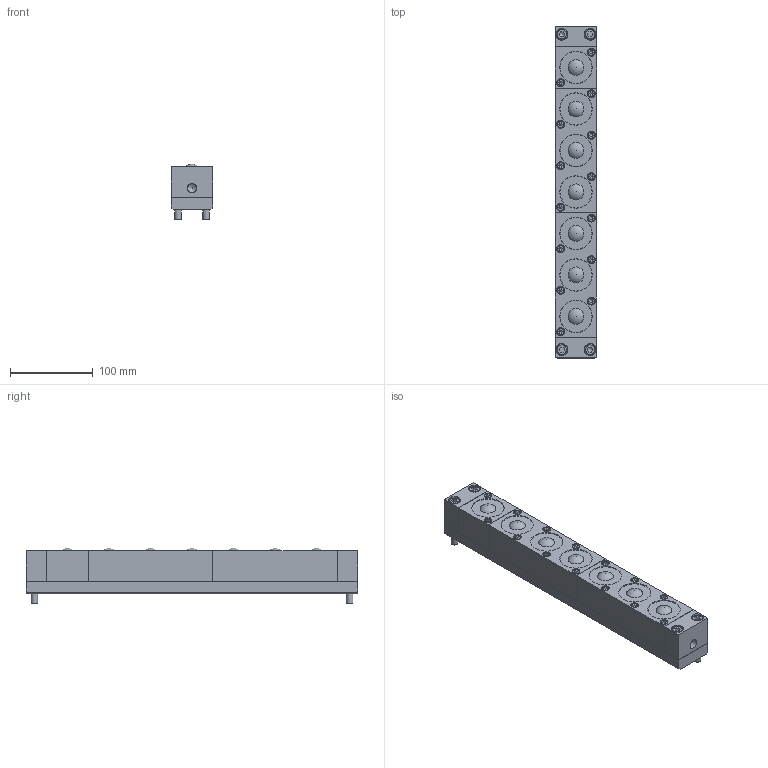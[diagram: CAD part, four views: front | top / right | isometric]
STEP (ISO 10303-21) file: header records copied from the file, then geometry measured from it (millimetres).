
FILE_DESCRIPTION(/* description */ (''),/* implementation_level */ '2;1');
FILE_NAME(/* name */ 'Z:\34-Tei\01-web 3Dデータ\41-ISR-50S型\ISR-50S-400-A.stp',/* time_stamp */ '2015-01-16T09:35:47+09:00',/* author */ ('yamaki'),/* organization */ (''),/* preprocessor_version */ 'ST-DEVELOPER v15.6',/* originating_system */ 'Autodesk Inventor 2015',/* authorisation */ '');
FILE_SCHEMA (('AUTOMOTIVE_DESIGN { 1 0 10303 214 3 1 1 }'));
Length unit declared in the file: millimetre
Products named in the file (6): 4200AT-01-400; 六角穴付きボルト-M8x55; 4200AT-02; 4200AT-00; 4200AT-03; ISR-50S
Bounding box: 49.5 x 400 x 67 mm (x, y, z)
Volume: 974446.5 mm3; surface area: 228690.5 mm2
Topology: 13 solids, 13 shells, 407 faces, 849 edges, 542 vertices
Faces by surface type: plane 270, cylinder 76, cone 34, torus 20, sphere 7
Full cylindrical faces by diameter (mm): 8 x2, 8.5 x14, 9 x2, 9.5 x14, 10.5 x1, 13 x4, 14.5 x4, 31.7 x7, 38.5 x7, 39 x7, 42 x14
Entity records: 5974 total; most frequent: CARTESIAN_POINT 1073, DIRECTION 956, ORIENTED_EDGE 834, EDGE_CURVE 417, AXIS2_PLACEMENT_3D 344, EDGE_LOOP 336, VERTEX_POINT 299, LINE 268
